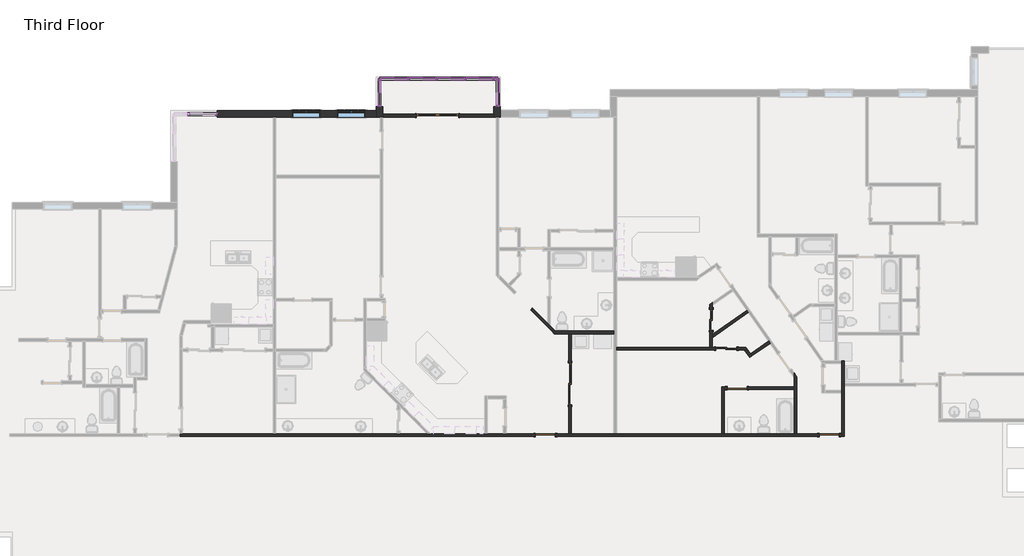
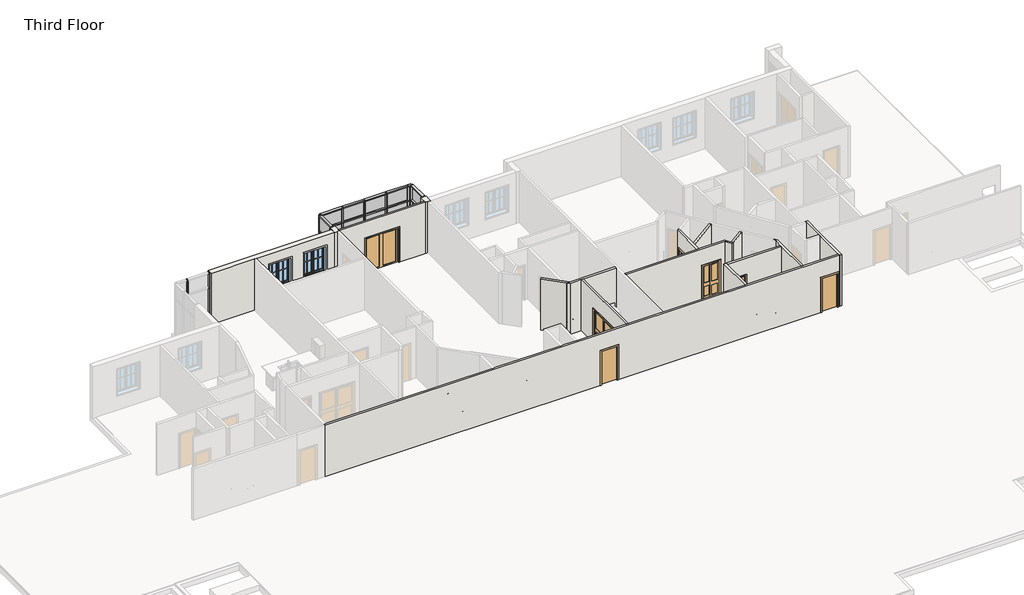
# One storey, part 10 of 17: 46 members, 17 walls, 14 plates, 7 doors, 2 windows.
"""IFC4 building model written with IfcOpenShell, lengths in millimetres."""

from ifc_helpers import new_model, si_unit, frame, origin, place, context, project, spatial, polyline, outline, extrude, faceted_brep, transform, mapped, element, save
from components import door_0a7806e9, door_c29894e6, door_88c23cd7, door_caaf2a11, rectangular_mullion_rectangular_mullion_1_fa3625a1, rectangular_mullion_rectangular_mullion_1_6186cc23, rectangular_mullion_rectangular_mullion_1_049a2e78, rectangular_mullion_rectangular_mullion_1_5cd4c5ac, rectangular_mullion_rectangular_mullion_1_a50b3cda, rectangular_mullion_rectangular_mullion_1_7cbf0b94, rectangular_mullion_rectangular_mullion_1_273a15f2, rectangular_mullion_rectangular_mullion_1_867fe1e1, rectangular_mullion_rectangular_mullion_1_e7cd13e6, rectangular_mullion_rectangular_mullion_1_4b421c8f, system_panel_glazed_53e6f9fb, system_panel_glazed_cb820e14, system_panel_glazed_53e3ec8b, system_panel_glazed_bdec29fe, system_panel_glazed_a1d2dedd, system_panel_glazed_37454f57, window_33528cc2

model = new_model("IFC4")

# Units and contexts
model_context = context("Model", 3, world=origin())
ifc_project = project(units=[si_unit("LENGTHUNIT", "METRE", prefix="MILLI")], contexts=[model_context])

# Site, building, storey
site = spatial("IfcSite", under=ifc_project)
building = spatial("IfcBuilding", under=site)
storey = spatial("IfcBuildingStorey", under=building, Name="Third Floor", Elevation=6096.0)

# Doors
placement = place(None, origin())
door_shape = door_0a7806e9(model_context)
element("IfcDoor", 1, ObjectType="Double-Glass 1 : 72\" x 82\"", at=placement, inside=storey, context=model_context, shape_type="MappedRepresentation", body=[
    mapped(door_shape, transform((29070.5311023, 16131.8552839, 6096.0), x_axis=(1.0, 0.0, 0.0), y_axis=(0.0, 1.0, 0.0), z_axis=(0.0, 0.0, 1.0))),
])
door_2_shape = door_c29894e6(model_context)
element("IfcDoor", 2, ObjectType="Single-Flush : 34\" x 80\"", at=placement, inside=storey, context=model_context, shape_type="MappedRepresentation", body=[
    mapped(door_2_shape, transform((46002.0126872, 2302.2091714, 6096.0), x_axis=(1.0, 0.0, 0.0), y_axis=(0.0, 1.0, 0.0), z_axis=(0.0, 0.0, 1.0))),
])
element("IfcDoor", 3, ObjectType="Single-Flush : 34\" x 80\"", at=placement, inside=storey, context=model_context, shape_type="MappedRepresentation", body=[
    mapped(door_2_shape, transform((42028.0852525, 4334.2091714, 6096.0), x_axis=(-1.0, 0.0, 0.0), y_axis=(0.0, -1.0, 0.0), z_axis=(0.0, 0.0, 1.0))),
])
element("IfcDoor", 4, ObjectType="Single-Flush : 34\" x 80\"", at=placement, inside=storey, context=model_context, shape_type="MappedRepresentation", body=[
    mapped(door_2_shape, transform((33733.8246645, 2302.2091714, 6096.0), x_axis=(1.0, 0.0, 0.0), y_axis=(0.0, 1.0, 0.0), z_axis=(0.0, 0.0, 1.0))),
])
door_3_shape = door_88c23cd7(model_context)
element("IfcDoor", 5, ObjectType="Sliding-Closet : 36\" x 80\"", at=placement, inside=storey, context=model_context, shape_type="MappedRepresentation", body=[
    mapped(door_3_shape, transform((41029.9347694, 7292.860079, 6096.0), x_axis=(0.0, 1.0, 0.0), y_axis=(-1.0, 0.0, 0.0), z_axis=(0.0, 0.0, 1.0))),
])
element("IfcDoor", 6, ObjectType="Sliding-Closet : 36\" x 80\"", at=placement, inside=storey, context=model_context, shape_type="MappedRepresentation", body=[
    mapped(door_3_shape, transform((41563.3347694, 5921.260079, 6096.0), x_axis=(1.0, 0.0, 0.0), y_axis=(0.0, 1.0, 0.0), z_axis=(0.0, 0.0, 1.0))),
])
door_4_shape = door_caaf2a11(model_context)
element("IfcDoor", 7, ObjectType="Sliding-Closet : 72\" x 80\"", at=placement, inside=storey, context=model_context, shape_type="MappedRepresentation", body=[
    mapped(door_4_shape, transform((34927.6246645, 4525.6075569, 6096.0), x_axis=(0.0, 1.0, 0.0), y_axis=(-1.0, 0.0, 0.0), z_axis=(0.0, 0.0, 1.0))),
])

# Members
rectangular_mullion_rectangular_mullion_1_shape = rectangular_mullion_rectangular_mullion_1_fa3625a1(model_context)
element("IfcMember", 8, ObjectType="Rectangular Mullion : Rectangular Mullion 1", at=placement, inside=storey, context=model_context, shape_type="MappedRepresentation", body=[
    mapped(rectangular_mullion_rectangular_mullion_1_shape, transform((19487.8198571, 16206.4791823, 6096.0), x_axis=(0.0, 0.0, -1.0), y_axis=(0.0, 1.0, 0.0), z_axis=(1.0, 0.0, 0.0))),
])
rectangular_mullion_rectangular_mullion_1_2_shape = rectangular_mullion_rectangular_mullion_1_6186cc23(model_context)
element("IfcMember", 9, ObjectType="Rectangular Mullion : Rectangular Mullion 1", at=placement, inside=storey, context=model_context, shape_type="MappedRepresentation", body=[
    mapped(rectangular_mullion_rectangular_mullion_1_2_shape, transform((18300.3698568, 16206.4791823, 6096.0), x_axis=(-1.0, 0.0, 0.0), y_axis=(0.0, 1.0, 0.0), z_axis=(0.0, 0.0, -1.0))),
])
rectangular_mullion_rectangular_mullion_1_3_shape = rectangular_mullion_rectangular_mullion_1_049a2e78(model_context)
element("IfcMember", 10, ObjectType="Rectangular Mullion : Rectangular Mullion 1", at=placement, inside=storey, context=model_context, shape_type="MappedRepresentation", body=[
    mapped(rectangular_mullion_rectangular_mullion_1_3_shape, transform((18300.3698568, 16206.4791823, 8261.35), x_axis=(-1.0, 0.0, 0.0), y_axis=(0.0, 1.0, 0.0), z_axis=(0.0, 0.0, -1.0))),
])
rectangular_mullion_rectangular_mullion_1_4_shape = rectangular_mullion_rectangular_mullion_1_5cd4c5ac(model_context)
element("IfcMember", 11, ObjectType="Rectangular Mullion : Rectangular Mullion 1", at=placement, inside=storey, context=model_context, shape_type="MappedRepresentation", body=[
    mapped(rectangular_mullion_rectangular_mullion_1_4_shape, transform((19551.3198571, 16206.4791823, 9144.0), x_axis=(1.0, 0.0, 0.0), y_axis=(0.0, 1.0, 0.0), z_axis=(0.0, 0.0, 1.0))),
])
rectangular_mullion_rectangular_mullion_1_5_shape = rectangular_mullion_rectangular_mullion_1_a50b3cda(model_context)
element("IfcMember", 12, ObjectType="Rectangular Mullion : Rectangular Mullion 1", at=placement, inside=storey, context=model_context, shape_type="MappedRepresentation", body=[
    mapped(rectangular_mullion_rectangular_mullion_1_5_shape, transform((19551.3198571, 16206.4791823, 8261.35), x_axis=(1.0, 0.0, 0.0), y_axis=(0.0, 1.0, 0.0), z_axis=(0.0, 0.0, 1.0))),
])
element("IfcMember", 13, ObjectType="Rectangular Mullion : Rectangular Mullion 1", at=placement, inside=storey, context=model_context, shape_type="MappedRepresentation", body=[
    mapped(rectangular_mullion_rectangular_mullion_1_shape, transform((27780.9198574, 17730.4791823, 9144.0), x_axis=(0.0, 0.0, 1.0), y_axis=(0.0, -1.0, 0.0), z_axis=(1.0, 0.0, 0.0))),
])
element("IfcMember", 14, ObjectType="Rectangular Mullion : Rectangular Mullion 1", at=placement, inside=storey, context=model_context, shape_type="MappedRepresentation", body=[
    mapped(rectangular_mullion_rectangular_mullion_1_shape, transform((29000.1198574, 17730.4791823, 9144.0), x_axis=(0.0, 0.0, 1.0), y_axis=(0.0, -1.0, 0.0), z_axis=(1.0, 0.0, 0.0))),
])
element("IfcMember", 15, ObjectType="Rectangular Mullion : Rectangular Mullion 1", at=placement, inside=storey, context=model_context, shape_type="MappedRepresentation", body=[
    mapped(rectangular_mullion_rectangular_mullion_1_shape, transform((30219.3198574, 17730.4791823, 9144.0), x_axis=(0.0, 0.0, 1.0), y_axis=(0.0, -1.0, 0.0), z_axis=(1.0, 0.0, 0.0))),
])
element("IfcMember", 16, ObjectType="Rectangular Mullion : Rectangular Mullion 1", at=placement, inside=storey, context=model_context, shape_type="MappedRepresentation", body=[
    mapped(rectangular_mullion_rectangular_mullion_1_shape, transform((31438.5198574, 17730.4791823, 9144.0), x_axis=(0.0, 0.0, 1.0), y_axis=(0.0, -1.0, 0.0), z_axis=(1.0, 0.0, 0.0))),
])
element("IfcMember", 17, ObjectType="Rectangular Mullion : Rectangular Mullion 1", at=placement, inside=storey, context=model_context, shape_type="MappedRepresentation", body=[
    mapped(rectangular_mullion_rectangular_mullion_1_shape, transform((26625.2198571, 17730.4791823, 6096.0), x_axis=(0.0, 0.0, -1.0), y_axis=(0.0, -1.0, 0.0), z_axis=(-1.0, 0.0, 0.0))),
])
element("IfcMember", 18, ObjectType="Rectangular Mullion : Rectangular Mullion 1", at=placement, inside=storey, context=model_context, shape_type="MappedRepresentation", body=[
    mapped(rectangular_mullion_rectangular_mullion_1_shape, transform((27844.4198574, 17730.4791823, 6096.0), x_axis=(0.0, 0.0, -1.0), y_axis=(0.0, -1.0, 0.0), z_axis=(-1.0, 0.0, 0.0))),
])
element("IfcMember", 19, ObjectType="Rectangular Mullion : Rectangular Mullion 1", at=placement, inside=storey, context=model_context, shape_type="MappedRepresentation", body=[
    mapped(rectangular_mullion_rectangular_mullion_1_shape, transform((29063.6198574, 17730.4791823, 6096.0), x_axis=(0.0, 0.0, -1.0), y_axis=(0.0, -1.0, 0.0), z_axis=(-1.0, 0.0, 0.0))),
])
element("IfcMember", 20, ObjectType="Rectangular Mullion : Rectangular Mullion 1", at=placement, inside=storey, context=model_context, shape_type="MappedRepresentation", body=[
    mapped(rectangular_mullion_rectangular_mullion_1_shape, transform((30282.8198574, 17730.4791823, 6096.0), x_axis=(0.0, 0.0, -1.0), y_axis=(0.0, -1.0, 0.0), z_axis=(-1.0, 0.0, 0.0))),
])
element("IfcMember", 21, ObjectType="Rectangular Mullion : Rectangular Mullion 1", at=placement, inside=storey, context=model_context, shape_type="MappedRepresentation", body=[
    mapped(rectangular_mullion_rectangular_mullion_1_5_shape, transform((26561.7198571, 17730.4791823, 6096.0), x_axis=(0.0, 1.0, 0.0), y_axis=(1.0, 0.0, 0.0), z_axis=(0.0, 0.0, -1.0))),
])
element("IfcMember", 22, ObjectType="Rectangular Mullion : Rectangular Mullion 1", at=placement, inside=storey, context=model_context, shape_type="MappedRepresentation", body=[
    mapped(rectangular_mullion_rectangular_mullion_1_5_shape, transform((31667.447822, 17730.4791823, 6096.0), x_axis=(1.0, 0.0, 0.0), y_axis=(0.0, -1.0, 0.0), z_axis=(0.0, 0.0, -1.0))),
])
element("IfcMember", 23, ObjectType="Rectangular Mullion : Rectangular Mullion 1", at=placement, inside=storey, context=model_context, shape_type="MappedRepresentation", body=[
    mapped(rectangular_mullion_rectangular_mullion_1_5_shape, transform((31667.447822, 16511.2791823, 6096.0), x_axis=(0.0, -1.0, 0.0), y_axis=(-1.0, 0.0, 0.0), z_axis=(0.0, 0.0, -1.0))),
])
element("IfcMember", 24, ObjectType="Rectangular Mullion : Rectangular Mullion 1", at=placement, inside=storey, context=model_context, shape_type="MappedRepresentation", body=[
    mapped(rectangular_mullion_rectangular_mullion_1_4_shape, transform((26561.7198571, 17730.4791823, 8261.35), x_axis=(0.0, 1.0, 0.0), y_axis=(1.0, 0.0, 0.0), z_axis=(0.0, 0.0, -1.0))),
])
element("IfcMember", 25, ObjectType="Rectangular Mullion : Rectangular Mullion 1", at=placement, inside=storey, context=model_context, shape_type="MappedRepresentation", body=[
    mapped(rectangular_mullion_rectangular_mullion_1_4_shape, transform((31667.447822, 17730.4791823, 8261.35), x_axis=(1.0, 0.0, 0.0), y_axis=(0.0, -1.0, 0.0), z_axis=(0.0, 0.0, -1.0))),
])
element("IfcMember", 26, ObjectType="Rectangular Mullion : Rectangular Mullion 1", at=placement, inside=storey, context=model_context, shape_type="MappedRepresentation", body=[
    mapped(rectangular_mullion_rectangular_mullion_1_4_shape, transform((31667.447822, 16511.2791823, 8261.35), x_axis=(0.0, -1.0, 0.0), y_axis=(-1.0, 0.0, 0.0), z_axis=(0.0, 0.0, -1.0))),
])
element("IfcMember", 27, ObjectType="Rectangular Mullion : Rectangular Mullion 1", at=placement, inside=storey, context=model_context, shape_type="MappedRepresentation", body=[
    mapped(rectangular_mullion_rectangular_mullion_1_4_shape, transform((26561.7198571, 16511.2791823, 9144.0), x_axis=(0.0, -1.0, 0.0), y_axis=(1.0, 0.0, 0.0), z_axis=(0.0, 0.0, 1.0))),
])
element("IfcMember", 28, ObjectType="Rectangular Mullion : Rectangular Mullion 1", at=placement, inside=storey, context=model_context, shape_type="MappedRepresentation", body=[
    mapped(rectangular_mullion_rectangular_mullion_1_4_shape, transform((26561.7198571, 17730.4791823, 9144.0), x_axis=(-1.0, 0.0, 0.0), y_axis=(0.0, -1.0, 0.0), z_axis=(0.0, 0.0, 1.0))),
])
element("IfcMember", 29, ObjectType="Rectangular Mullion : Rectangular Mullion 1", at=placement, inside=storey, context=model_context, shape_type="MappedRepresentation", body=[
    mapped(rectangular_mullion_rectangular_mullion_1_4_shape, transform((31667.447822, 17730.4791823, 9144.0), x_axis=(0.0, 1.0, 0.0), y_axis=(-1.0, 0.0, 0.0), z_axis=(0.0, 0.0, 1.0))),
])
element("IfcMember", 30, ObjectType="Rectangular Mullion : Rectangular Mullion 1", at=placement, inside=storey, context=model_context, shape_type="MappedRepresentation", body=[
    mapped(rectangular_mullion_rectangular_mullion_1_5_shape, transform((26561.7198571, 16511.2791823, 8261.35), x_axis=(0.0, -1.0, 0.0), y_axis=(1.0, 0.0, 0.0), z_axis=(0.0, 0.0, 1.0))),
])
element("IfcMember", 31, ObjectType="Rectangular Mullion : Rectangular Mullion 1", at=placement, inside=storey, context=model_context, shape_type="MappedRepresentation", body=[
    mapped(rectangular_mullion_rectangular_mullion_1_5_shape, transform((26561.7198571, 17730.4791823, 8261.35), x_axis=(-1.0, 0.0, 0.0), y_axis=(0.0, -1.0, 0.0), z_axis=(0.0, 0.0, 1.0))),
])
element("IfcMember", 32, ObjectType="Rectangular Mullion : Rectangular Mullion 1", at=placement, inside=storey, context=model_context, shape_type="MappedRepresentation", body=[
    mapped(rectangular_mullion_rectangular_mullion_1_5_shape, transform((31667.447822, 17730.4791823, 8261.35), x_axis=(0.0, 1.0, 0.0), y_axis=(-1.0, 0.0, 0.0), z_axis=(0.0, 0.0, 1.0))),
])
rectangular_mullion_rectangular_mullion_1_6_shape = rectangular_mullion_rectangular_mullion_1_7cbf0b94(model_context)
element("IfcMember", 33, ObjectType="Rectangular Mullion : Rectangular Mullion 1", at=placement, inside=storey, context=model_context, shape_type="MappedRepresentation", body=[
    mapped(rectangular_mullion_rectangular_mullion_1_6_shape, transform((27780.9198574, 17730.4791823, 8261.35), x_axis=(0.0, 0.0, 1.0), y_axis=(0.0, -1.0, 0.0), z_axis=(1.0, 0.0, 0.0))),
])
element("IfcMember", 34, ObjectType="Rectangular Mullion : Rectangular Mullion 1", at=placement, inside=storey, context=model_context, shape_type="MappedRepresentation", body=[
    mapped(rectangular_mullion_rectangular_mullion_1_6_shape, transform((29000.1198574, 17730.4791823, 8261.35), x_axis=(0.0, 0.0, 1.0), y_axis=(0.0, -1.0, 0.0), z_axis=(1.0, 0.0, 0.0))),
])
element("IfcMember", 35, ObjectType="Rectangular Mullion : Rectangular Mullion 1", at=placement, inside=storey, context=model_context, shape_type="MappedRepresentation", body=[
    mapped(rectangular_mullion_rectangular_mullion_1_6_shape, transform((30219.3198574, 17730.4791823, 8261.35), x_axis=(0.0, 0.0, 1.0), y_axis=(0.0, -1.0, 0.0), z_axis=(1.0, 0.0, 0.0))),
])
element("IfcMember", 36, ObjectType="Rectangular Mullion : Rectangular Mullion 1", at=placement, inside=storey, context=model_context, shape_type="MappedRepresentation", body=[
    mapped(rectangular_mullion_rectangular_mullion_1_6_shape, transform((31438.5198574, 17730.4791823, 8261.35), x_axis=(0.0, 0.0, 1.0), y_axis=(0.0, -1.0, 0.0), z_axis=(1.0, 0.0, 0.0))),
])
element("IfcMember", 37, ObjectType="Rectangular Mullion : Rectangular Mullion 1", at=placement, inside=storey, context=model_context, shape_type="MappedRepresentation", body=[
    mapped(rectangular_mullion_rectangular_mullion_1_2_shape, transform((27812.6698574, 17730.4791823, 6096.0), x_axis=(1.0, 0.0, 0.0), y_axis=(0.0, -1.0, 0.0), z_axis=(0.0, 0.0, -1.0))),
])
element("IfcMember", 38, ObjectType="Rectangular Mullion : Rectangular Mullion 1", at=placement, inside=storey, context=model_context, shape_type="MappedRepresentation", body=[
    mapped(rectangular_mullion_rectangular_mullion_1_2_shape, transform((29031.8698574, 17730.4791823, 6096.0), x_axis=(1.0, 0.0, 0.0), y_axis=(0.0, -1.0, 0.0), z_axis=(0.0, 0.0, -1.0))),
])
element("IfcMember", 39, ObjectType="Rectangular Mullion : Rectangular Mullion 1", at=placement, inside=storey, context=model_context, shape_type="MappedRepresentation", body=[
    mapped(rectangular_mullion_rectangular_mullion_1_2_shape, transform((30251.0698574, 17730.4791823, 6096.0), x_axis=(1.0, 0.0, 0.0), y_axis=(0.0, -1.0, 0.0), z_axis=(0.0, 0.0, -1.0))),
])
element("IfcMember", 40, ObjectType="Rectangular Mullion : Rectangular Mullion 1", at=placement, inside=storey, context=model_context, shape_type="MappedRepresentation", body=[
    mapped(rectangular_mullion_rectangular_mullion_1_2_shape, transform((31470.2698574, 17730.4791823, 6096.0), x_axis=(1.0, 0.0, 0.0), y_axis=(0.0, -1.0, 0.0), z_axis=(0.0, 0.0, -1.0))),
])
element("IfcMember", 41, ObjectType="Rectangular Mullion : Rectangular Mullion 1", at=placement, inside=storey, context=model_context, shape_type="MappedRepresentation", body=[
    mapped(rectangular_mullion_rectangular_mullion_1_3_shape, transform((27812.6698574, 17730.4791823, 8261.35), x_axis=(1.0, 0.0, 0.0), y_axis=(0.0, -1.0, 0.0), z_axis=(0.0, 0.0, -1.0))),
])
element("IfcMember", 42, ObjectType="Rectangular Mullion : Rectangular Mullion 1", at=placement, inside=storey, context=model_context, shape_type="MappedRepresentation", body=[
    mapped(rectangular_mullion_rectangular_mullion_1_3_shape, transform((29031.8698574, 17730.4791823, 8261.35), x_axis=(1.0, 0.0, 0.0), y_axis=(0.0, -1.0, 0.0), z_axis=(0.0, 0.0, -1.0))),
])
element("IfcMember", 43, ObjectType="Rectangular Mullion : Rectangular Mullion 1", at=placement, inside=storey, context=model_context, shape_type="MappedRepresentation", body=[
    mapped(rectangular_mullion_rectangular_mullion_1_3_shape, transform((30251.0698574, 17730.4791823, 8261.35), x_axis=(1.0, 0.0, 0.0), y_axis=(0.0, -1.0, 0.0), z_axis=(0.0, 0.0, -1.0))),
])
element("IfcMember", 44, ObjectType="Rectangular Mullion : Rectangular Mullion 1", at=placement, inside=storey, context=model_context, shape_type="MappedRepresentation", body=[
    mapped(rectangular_mullion_rectangular_mullion_1_3_shape, transform((31470.2698574, 17730.4791823, 8261.35), x_axis=(1.0, 0.0, 0.0), y_axis=(0.0, -1.0, 0.0), z_axis=(0.0, 0.0, -1.0))),
])
rectangular_mullion_rectangular_mullion_1_7_shape = rectangular_mullion_rectangular_mullion_1_273a15f2(model_context)
element("IfcMember", 45, ObjectType="Rectangular Mullion : Rectangular Mullion 1", at=placement, inside=storey, context=model_context, shape_type="MappedRepresentation", body=[
    mapped(rectangular_mullion_rectangular_mullion_1_7_shape, transform((26561.7198571, 17666.9791823, 9144.0), x_axis=(0.0, 0.0, 1.0), y_axis=(1.0, 0.0, 0.0), z_axis=(0.0, 1.0, 0.0))),
])
element("IfcMember", 46, ObjectType="Rectangular Mullion : Rectangular Mullion 1", at=placement, inside=storey, context=model_context, shape_type="MappedRepresentation", body=[
    mapped(rectangular_mullion_rectangular_mullion_1_7_shape, transform((31667.447822, 16574.7791823, 9144.0), x_axis=(0.0, 0.0, 1.0), y_axis=(-1.0, 0.0, 0.0), z_axis=(0.0, -1.0, 0.0))),
])
element("IfcMember", 47, ObjectType="Rectangular Mullion : Rectangular Mullion 1", at=placement, inside=storey, context=model_context, shape_type="MappedRepresentation", body=[
    mapped(rectangular_mullion_rectangular_mullion_1_7_shape, transform((26561.7198571, 16574.7791823, 6096.0), x_axis=(0.0, 0.0, -1.0), y_axis=(1.0, 0.0, 0.0), z_axis=(0.0, -1.0, 0.0))),
])
element("IfcMember", 48, ObjectType="Rectangular Mullion : Rectangular Mullion 1", at=placement, inside=storey, context=model_context, shape_type="MappedRepresentation", body=[
    mapped(rectangular_mullion_rectangular_mullion_1_7_shape, transform((31667.447822, 17666.9791823, 6096.0), x_axis=(0.0, 0.0, -1.0), y_axis=(-1.0, 0.0, 0.0), z_axis=(0.0, 1.0, 0.0))),
])
rectangular_mullion_rectangular_mullion_1_8_shape = rectangular_mullion_rectangular_mullion_1_867fe1e1(model_context)
element("IfcMember", 49, ObjectType="Rectangular Mullion : Rectangular Mullion 1", at=placement, inside=storey, context=model_context, shape_type="MappedRepresentation", body=[
    mapped(rectangular_mullion_rectangular_mullion_1_8_shape, transform((26561.7198571, 17666.9791823, 8261.35), x_axis=(0.0, 0.0, 1.0), y_axis=(1.0, 0.0, 0.0), z_axis=(0.0, 1.0, 0.0))),
])
element("IfcMember", 50, ObjectType="Rectangular Mullion : Rectangular Mullion 1", at=placement, inside=storey, context=model_context, shape_type="MappedRepresentation", body=[
    mapped(rectangular_mullion_rectangular_mullion_1_8_shape, transform((31667.447822, 16574.7791823, 8261.35), x_axis=(0.0, 0.0, 1.0), y_axis=(-1.0, 0.0, 0.0), z_axis=(0.0, -1.0, 0.0))),
])
rectangular_mullion_rectangular_mullion_1_9_shape = rectangular_mullion_rectangular_mullion_1_e7cd13e6(model_context)
element("IfcMember", 51, ObjectType="Rectangular Mullion : Rectangular Mullion 1", at=placement, inside=storey, context=model_context, shape_type="MappedRepresentation", body=[
    mapped(rectangular_mullion_rectangular_mullion_1_9_shape, transform((31603.947822, 17730.4791823, 9144.0), x_axis=(0.0, 0.0, 1.0), y_axis=(0.0, -1.0, 0.0), z_axis=(1.0, 0.0, 0.0))),
])
element("IfcMember", 52, ObjectType="Rectangular Mullion : Rectangular Mullion 1", at=placement, inside=storey, context=model_context, shape_type="MappedRepresentation", body=[
    mapped(rectangular_mullion_rectangular_mullion_1_9_shape, transform((31502.0198574, 17730.4791823, 6096.0), x_axis=(0.0, 0.0, -1.0), y_axis=(0.0, -1.0, 0.0), z_axis=(-1.0, 0.0, 0.0))),
])
rectangular_mullion_rectangular_mullion_1_10_shape = rectangular_mullion_rectangular_mullion_1_4b421c8f(model_context)
element("IfcMember", 53, ObjectType="Rectangular Mullion : Rectangular Mullion 1", at=placement, inside=storey, context=model_context, shape_type="MappedRepresentation", body=[
    mapped(rectangular_mullion_rectangular_mullion_1_10_shape, transform((31603.947822, 17730.4791823, 8261.35), x_axis=(0.0, 0.0, 1.0), y_axis=(0.0, -1.0, 0.0), z_axis=(1.0, 0.0, 0.0))),
])

# Plates
system_panel_glazed_shape = system_panel_glazed_53e6f9fb(model_context)
element("IfcPlate", 54, ObjectType="System Panel : Glazed", at=placement, inside=storey, context=model_context, shape_type="MappedRepresentation", body=[
    mapped(system_panel_glazed_shape, transform((27203.0698573, 17730.4791823, 6159.5), x_axis=(1.0, 0.0, 0.0), y_axis=(0.0, 1.0, 0.0), z_axis=(0.0, 0.0, 1.0))),
])
element("IfcPlate", 55, ObjectType="System Panel : Glazed", at=placement, inside=storey, context=model_context, shape_type="MappedRepresentation", body=[
    mapped(system_panel_glazed_shape, transform((28422.2698574, 17730.4791823, 6159.5), x_axis=(1.0, 0.0, 0.0), y_axis=(0.0, 1.0, 0.0), z_axis=(0.0, 0.0, 1.0))),
])
element("IfcPlate", 56, ObjectType="System Panel : Glazed", at=placement, inside=storey, context=model_context, shape_type="MappedRepresentation", body=[
    mapped(system_panel_glazed_shape, transform((29641.4698574, 17730.4791823, 6159.5), x_axis=(1.0, 0.0, 0.0), y_axis=(0.0, 1.0, 0.0), z_axis=(0.0, 0.0, 1.0))),
])
element("IfcPlate", 57, ObjectType="System Panel : Glazed", at=placement, inside=storey, context=model_context, shape_type="MappedRepresentation", body=[
    mapped(system_panel_glazed_shape, transform((30860.6698574, 17730.4791823, 6159.5), x_axis=(1.0, 0.0, 0.0), y_axis=(0.0, 1.0, 0.0), z_axis=(0.0, 0.0, 1.0))),
])
system_panel_glazed_2_shape = system_panel_glazed_cb820e14(model_context)
element("IfcPlate", 58, ObjectType="System Panel : Glazed", at=placement, inside=storey, context=model_context, shape_type="MappedRepresentation", body=[
    mapped(system_panel_glazed_2_shape, transform((27203.0698573, 17730.4791823, 8293.1), x_axis=(1.0, 0.0, 0.0), y_axis=(0.0, 1.0, 0.0), z_axis=(0.0, 0.0, 1.0))),
])
element("IfcPlate", 59, ObjectType="System Panel : Glazed", at=placement, inside=storey, context=model_context, shape_type="MappedRepresentation", body=[
    mapped(system_panel_glazed_2_shape, transform((28422.2698574, 17730.4791823, 8293.1), x_axis=(1.0, 0.0, 0.0), y_axis=(0.0, 1.0, 0.0), z_axis=(0.0, 0.0, 1.0))),
])
element("IfcPlate", 60, ObjectType="System Panel : Glazed", at=placement, inside=storey, context=model_context, shape_type="MappedRepresentation", body=[
    mapped(system_panel_glazed_2_shape, transform((29641.4698574, 17730.4791823, 8293.1), x_axis=(1.0, 0.0, 0.0), y_axis=(0.0, 1.0, 0.0), z_axis=(0.0, 0.0, 1.0))),
])
element("IfcPlate", 61, ObjectType="System Panel : Glazed", at=placement, inside=storey, context=model_context, shape_type="MappedRepresentation", body=[
    mapped(system_panel_glazed_2_shape, transform((30860.6698574, 17730.4791823, 8293.1), x_axis=(1.0, 0.0, 0.0), y_axis=(0.0, 1.0, 0.0), z_axis=(0.0, 0.0, 1.0))),
])
system_panel_glazed_3_shape = system_panel_glazed_53e3ec8b(model_context)
element("IfcPlate", 62, ObjectType="System Panel : Glazed", at=placement, inside=storey, context=model_context, shape_type="MappedRepresentation", body=[
    mapped(system_panel_glazed_3_shape, transform((26561.7198571, 17120.8791823, 6159.5), x_axis=(0.0, 1.0, 0.0), y_axis=(-1.0, 0.0, 0.0), z_axis=(0.0, 0.0, 1.0))),
])
element("IfcPlate", 63, ObjectType="System Panel : Glazed", at=placement, inside=storey, context=model_context, shape_type="MappedRepresentation", body=[
    mapped(system_panel_glazed_3_shape, transform((31667.447822, 17120.8791823, 6159.5), x_axis=(0.0, -1.0, 0.0), y_axis=(1.0, 0.0, 0.0), z_axis=(0.0, 0.0, 1.0))),
])
system_panel_glazed_4_shape = system_panel_glazed_bdec29fe(model_context)
element("IfcPlate", 64, ObjectType="System Panel : Glazed", at=placement, inside=storey, context=model_context, shape_type="MappedRepresentation", body=[
    mapped(system_panel_glazed_4_shape, transform((26561.7198571, 17120.8791823, 8293.1), x_axis=(0.0, 1.0, 0.0), y_axis=(-1.0, 0.0, 0.0), z_axis=(0.0, 0.0, 1.0))),
])
element("IfcPlate", 65, ObjectType="System Panel : Glazed", at=placement, inside=storey, context=model_context, shape_type="MappedRepresentation", body=[
    mapped(system_panel_glazed_4_shape, transform((31667.447822, 17120.8791823, 8293.1), x_axis=(0.0, -1.0, 0.0), y_axis=(1.0, 0.0, 0.0), z_axis=(0.0, 0.0, 1.0))),
])
system_panel_glazed_5_shape = system_panel_glazed_a1d2dedd(model_context)
element("IfcPlate", 66, ObjectType="System Panel : Glazed", at=placement, inside=storey, context=model_context, shape_type="MappedRepresentation", body=[
    mapped(system_panel_glazed_5_shape, transform((31552.9838397, 17730.4791823, 6159.5), x_axis=(1.0, 0.0, 0.0), y_axis=(0.0, 1.0, 0.0), z_axis=(0.0, 0.0, 1.0))),
])
system_panel_glazed_6_shape = system_panel_glazed_37454f57(model_context)
element("IfcPlate", 67, ObjectType="System Panel : Glazed", at=placement, inside=storey, context=model_context, shape_type="MappedRepresentation", body=[
    mapped(system_panel_glazed_6_shape, transform((31552.9838397, 17730.4791823, 8293.1), x_axis=(1.0, 0.0, 0.0), y_axis=(0.0, 1.0, 0.0), z_axis=(0.0, 0.0, 1.0))),
])

# Walls
element("IfcWall", 68, ObjectType="Exterior - Brick on Wood Stud", at=placement, inside=storey, context=model_context, shape_type="Brep", body=[
    faceted_brep([(31777.7798474, 16077.0865339, 6096.0), (31777.7798474, 16359.6615339, 6096.0), (31777.7798474, 16511.2791823, 6096.0), (31777.7798474, 16511.2791823, 9144.0), (31777.7798474, 16359.6615339, 9144.0), (31777.7798474, 16077.0865339, 9144.0), (31495.2048474, 16077.0865339, 6096.0), (31495.2048474, 16077.0865339, 9144.0), (31495.2048474, 16191.3865339, 9144.0), (31495.2048474, 16511.2791823, 9144.0), (31495.2048474, 16511.2791823, 6096.0), (31495.2048474, 16191.3865339, 6096.0), (31724.597822, 16077.0865339, 6096.0), (31610.297822, 16077.0865339, 6096.0), (31610.297822, 16077.0865339, 9144.0), (31724.597822, 16077.0865339, 9144.0)], [[[0, 1, 2, 3, 4, 5]], [[6, 7, 8, 9, 10, 11]], [[2, 1, 0, 12, 13, 6, 11, 10]], [[3, 2, 10, 9]], [[5, 4, 3, 9, 8, 7, 14, 15]], [[0, 5, 15, 14, 7, 6, 13, 12]]]),
])
element("IfcWall", 69, ObjectType="Exterior - Brick on Wood Stud", at=placement, inside=storey, context=model_context, shape_type="Brep", body=[
    faceted_brep([(26420.4323571, 16511.2791823, 6096.0), (26420.4323571, 16347.7666823, 6096.0), (26420.4323571, 16065.1916823, 6096.0), (26420.4323571, 16065.1916823, 9144.0), (26420.4323571, 16347.7666823, 9144.0), (26420.4323571, 16511.2791823, 9144.0), (26703.0073571, 16511.2791823, 6096.0), (26703.0073571, 16511.2791823, 9144.0), (26703.0073571, 16191.3865339, 9144.0), (26703.0073571, 16077.0865339, 9144.0), (26703.0073571, 16065.1916823, 9144.0), (26703.0073571, 16065.1916823, 6096.0), (26703.0073571, 16077.0865339, 6096.0), (26703.0073571, 16191.3865339, 6096.0)], [[[0, 1, 2, 3, 4, 5]], [[6, 7, 8, 9, 10, 11, 12, 13]], [[2, 1, 0, 6, 13, 12, 11]], [[5, 4, 3, 10, 9, 8, 7]], [[0, 5, 7, 6]], [[3, 2, 11, 10]]]),
])
element("IfcWall", 70, ObjectType="Exterior - Brick on Wood Stud", at=placement, inside=storey, context=model_context, shape_type="Brep", body=[
    faceted_brep([(26420.4323571, 16347.7666823, 6096.0), (19551.3198571, 16347.7666823, 6096.0), (19551.3198571, 16347.7666823, 9144.0), (26420.4323571, 16347.7666823, 9144.0), (25952.1198571, 16347.7666823, 8534.4), (24732.9198571, 16347.7666823, 8534.4), (24732.9198571, 16347.7666823, 7010.4), (25952.1198571, 16347.7666823, 7010.4), (24004.2573571, 16347.7666823, 8534.4), (22785.0573571, 16347.7666823, 8534.4), (22785.0573571, 16347.7666823, 7010.4), (24004.2573571, 16347.7666823, 7010.4), (26420.4323571, 16065.1916823, 6096.0), (26420.4323571, 16065.1916823, 9144.0), (22080.2073571, 16065.1916823, 9144.0), (21965.9073571, 16065.1916823, 9144.0), (19551.3198571, 16065.1916823, 9144.0), (19551.3198571, 16065.1916823, 6096.0), (21965.9073571, 16065.1916823, 6096.0), (22080.2073571, 16065.1916823, 6096.0), (25952.1198571, 16065.1916823, 8534.4), (25952.1198571, 16065.1916823, 7010.4), (24732.9198571, 16065.1916823, 7010.4), (24732.9198571, 16065.1916823, 8534.4), (24004.2573571, 16065.1916823, 8534.4), (24004.2573571, 16065.1916823, 7010.4), (22785.0573571, 16065.1916823, 7010.4), (22785.0573571, 16065.1916823, 8534.4)], [[[0, 1, 2, 3], [4, 5, 6, 7], [8, 9, 10, 11]], [[12, 13, 14, 15, 16, 17, 18, 19], [20, 21, 22, 23], [24, 25, 26, 27]], [[1, 0, 12, 19, 18, 17]], [[2, 1, 17, 16]], [[3, 2, 16, 15, 14, 13]], [[21, 20, 4, 7]], [[22, 21, 7, 6]], [[23, 22, 6, 5]], [[20, 23, 5, 4]], [[25, 24, 8, 11]], [[26, 25, 11, 10]], [[27, 26, 10, 9]], [[24, 27, 9, 8]], [[0, 3, 13, 12]]]),
])
element("IfcWall", 71, ObjectType="Interior - 4 1/2\" Partition", at=placement, inside=storey, context=model_context, shape_type="Brep", body=[
    faceted_brep([(46668.7626872, 2245.0591714, 6096.0), (46668.7626872, 4430.1886142, 6096.0), (46668.7626872, 4544.4886142, 6096.0), (46668.7626872, 5524.2893477, 6096.0), (46668.7626872, 5524.2893477, 9144.0), (46668.7626872, 4544.4886142, 9144.0), (46668.7626872, 4430.1886142, 9144.0), (46668.7626872, 2245.0591714, 9144.0), (46554.4626872, 2245.0591714, 6096.0), (46554.4626872, 2245.0591714, 9144.0), (46554.4626872, 2359.3591714, 9144.0), (46554.4626872, 4124.6591714, 9144.0), (46554.4626872, 4238.9591714, 9144.0), (46554.4626872, 5409.9893477, 9144.0), (46554.4626872, 5524.2893477, 9144.0), (46554.4626872, 5524.2893477, 6096.0), (46554.4626872, 5409.9893477, 6096.0), (46554.4626872, 4238.9591714, 6096.0), (46554.4626872, 4124.6591714, 6096.0), (46554.4626872, 2359.3591714, 6096.0)], [[[0, 1, 2, 3, 4, 5, 6, 7]], [[8, 9, 10, 11, 12, 13, 14, 15, 16, 17, 18, 19]], [[3, 2, 1, 0, 8, 19, 18, 17, 16, 15]], [[7, 6, 5, 4, 14, 13, 12, 11, 10, 9]], [[0, 7, 9, 8]], [[4, 3, 15, 14]]]),
])
element("IfcWall", 72, ObjectType="Interior - 4 1/2\" Partition", at=placement, inside=storey, context=model_context, shape_type="Brep", body=[
    faceted_brep([(45570.2126872, 2359.3591714, 6096.0), (44606.2949591, 2359.3591714, 6096.0), (44491.9949591, 2359.3591714, 6096.0), (41475.6352525, 2359.3591714, 6096.0), (41361.3352525, 2359.3591714, 6096.0), (36816.4178001, 2359.3591714, 6096.0), (36702.1178001, 2359.3591714, 6096.0), (34857.7746645, 2359.3591714, 6096.0), (34743.4746645, 2359.3591714, 6096.0), (34165.6246645, 2359.3591714, 6096.0), (34165.6246645, 2359.3591714, 8128.0), (33302.0246645, 2359.3591714, 8128.0), (33302.0246645, 2359.3591714, 6096.0), (32034.1576897, 2359.3591714, 6096.0), (31919.8576897, 2359.3591714, 6096.0), (31221.3576897, 2359.3591714, 6096.0), (31107.0576897, 2359.3591714, 6096.0), (28783.4392197, 2359.3591714, 6096.0), (28621.7946095, 2359.3591714, 6096.0), (27441.30388, 2359.3591714, 6096.0), (27327.00388, 2359.3591714, 6096.0), (22080.2073571, 2359.3591714, 6096.0), (21965.9073571, 2359.3591714, 6096.0), (18027.8493195, 2359.3591714, 6096.0), (17913.5493195, 2359.3591714, 6096.0), (17913.5493195, 2359.3591714, 9144.0), (18027.8493195, 2359.3591714, 9144.0), (21965.9073571, 2359.3591714, 9144.0), (22080.2073571, 2359.3591714, 9144.0), (27327.00388, 2359.3591714, 9144.0), (27441.30388, 2359.3591714, 9144.0), (28621.7946095, 2359.3591714, 9144.0), (28783.4392197, 2359.3591714, 9144.0), (31107.0576897, 2359.3591714, 9144.0), (31221.3576897, 2359.3591714, 9144.0), (31919.8576897, 2359.3591714, 9144.0), (32034.1576897, 2359.3591714, 9144.0), (34743.4746645, 2359.3591714, 9144.0), (34857.7746645, 2359.3591714, 9144.0), (36702.1178001, 2359.3591714, 9144.0), (36816.4178001, 2359.3591714, 9144.0), (41361.3352525, 2359.3591714, 9144.0), (41475.6352525, 2359.3591714, 9144.0), (44491.9949591, 2359.3591714, 9144.0), (44606.2949591, 2359.3591714, 9144.0), (46554.4626872, 2359.3591714, 9144.0), (46554.4626872, 2359.3591714, 6096.0), (46433.8126872, 2359.3591714, 6096.0), (46433.8126872, 2359.3591714, 8128.0), (45570.2126872, 2359.3591714, 8128.0), (34165.6246645, 2245.0591714, 8128.0), (34165.6246645, 2245.0591714, 6096.0), (45570.2126872, 2245.0591714, 6096.0), (45570.2126872, 2245.0591714, 8128.0), (46433.8126872, 2245.0591714, 8128.0), (46433.8126872, 2245.0591714, 6096.0), (46554.4626872, 2245.0591714, 6096.0), (46554.4626872, 2245.0591714, 9144.0), (17913.5493195, 2245.0591714, 9144.0), (17913.5493195, 2245.0591714, 6096.0), (33302.0246645, 2245.0591714, 6096.0), (33302.0246645, 2245.0591714, 8128.0)], [[[0, 1, 2, 3, 4, 5, 6, 7, 8, 9, 10, 11, 12, 13, 14, 15, 16, 17, 18, 19, 20, 21, 22, 23, 24, 25, 26, 27, 28, 29, 30, 31, 32, 33, 34, 35, 36, 37, 38, 39, 40, 41, 42, 43, 44, 45, 46, 47, 48, 49]], [[50, 51, 52, 53, 54, 55, 56, 57, 58, 59, 60, 61]], [[56, 55, 47, 46]], [[60, 59, 24, 23, 22, 21, 20, 19, 18, 17, 16, 15, 14, 13, 12]], [[52, 51, 9, 8, 7, 6, 5, 4, 3, 2, 1, 0]], [[45, 44, 43, 42, 41, 40, 39, 38, 37, 36, 35, 34, 33, 32, 31, 30, 29, 28, 27, 26, 25, 58, 57]], [[48, 47, 55, 54]], [[49, 48, 54, 53]], [[0, 49, 53, 52]], [[10, 9, 51, 50]], [[11, 10, 50, 61]], [[12, 11, 61, 60]], [[25, 24, 59, 58]], [[46, 45, 57, 56]]]),
])
element("IfcWall", 73, ObjectType="Interior - 4 1/2\" Partition", at=placement, inside=storey, context=model_context, shape_type="Brep", body=[
    faceted_brep([(41475.6352525, 2359.3591714, 6096.0), (41475.6352525, 4277.0591714, 6096.0), (41475.6352525, 4391.3591714, 6096.0), (41475.6352525, 4391.3591714, 9144.0), (41475.6352525, 4277.0591714, 9144.0), (41475.6352525, 2359.3591714, 9144.0), (41361.3352525, 2359.3591714, 6096.0), (41361.3352525, 2359.3591714, 9144.0), (41361.3352525, 4391.3591714, 9144.0), (41361.3352525, 4391.3591714, 6096.0)], [[[0, 1, 2, 3, 4, 5]], [[6, 7, 8, 9]], [[2, 1, 0, 6, 9]], [[5, 4, 3, 8, 7]], [[3, 2, 9, 8]], [[0, 5, 7, 6]]]),
])
element("IfcWall", 74, ObjectType="Interior - 4 1/2\" Partition", at=placement, inside=storey, context=model_context, shape_type="SweptSolid", body=[
    extrude(outline(polyline([(6096.0, 41475.6352525), (6096.0, 41596.2852525), (8128.0, 41596.2852525), (8128.0, 42459.8852525), (6096.0, 42459.8852525), (6096.0, 44491.9949591), (9144.0, 44491.9949591), (9144.0, 41475.6352525), (6096.0, 41475.6352525)])), frame((0.0, 4277.0591714, 0.0), z_axis=(0.0, 1.0, 0.0), x_axis=(0.0, 0.0, 1.0)), (0.0, 0.0, 1.0), 114.3),
])
element("IfcWall", 75, ObjectType="Interior - 4 1/2\" Partition", at=placement, inside=storey, context=model_context, shape_type="Brep", body=[
    faceted_brep([(44491.9949591, 4990.220165, 6096.0), (44491.9949591, 4790.9441963, 6096.0), (44491.9949591, 4391.3591714, 6096.0), (44491.9949591, 4277.0591714, 6096.0), (44491.9949591, 2359.3591714, 6096.0), (44491.9949591, 2359.3591714, 9144.0), (44491.9949591, 4277.0591714, 9144.0), (44491.9949591, 4391.3591714, 9144.0), (44491.9949591, 4790.9441963, 9144.0), (44491.9949591, 4990.220165, 9144.0), (44606.2949591, 4826.9828478, 6096.0), (44606.2949591, 4826.9828478, 9144.0), (44606.2949591, 2359.3591714, 9144.0), (44606.2949591, 2359.3591714, 6096.0)], [[[0, 1, 2, 3, 4, 5, 6, 7, 8, 9]], [[10, 11, 12, 13]], [[4, 3, 2, 1, 0, 10, 13]], [[9, 8, 7, 6, 5, 12, 11]], [[0, 9, 11, 10]], [[5, 4, 13, 12]]]),
])
element("IfcWall", 76, ObjectType="Interior - 4 1/2\" Partition", at=placement, inside=storey, context=model_context, shape_type="Brep", body=[
    faceted_brep([(42020.5347694, 5991.110079, 8128.0), (42020.5347694, 5991.110079, 6096.0), (42342.9173932, 5991.110079, 6096.0), (42482.4519287, 5991.110079, 6096.0), (42482.4519287, 5991.110079, 9144.0), (42342.9173932, 5991.110079, 9144.0), (36816.4178001, 5991.110079, 9144.0), (36816.4178001, 5991.110079, 6096.0), (41106.1347694, 5991.110079, 6096.0), (41106.1347694, 5991.110079, 8128.0), (42402.4182071, 6105.410079, 6096.0), (42020.5347694, 6105.410079, 6096.0), (42020.5347694, 6105.410079, 8128.0), (41106.1347694, 6105.410079, 8128.0), (41106.1347694, 6105.410079, 6096.0), (40960.0847694, 6105.410079, 6096.0), (40845.7847694, 6105.410079, 6096.0), (36816.4178001, 6105.410079, 6096.0), (36816.4178001, 6105.410079, 9144.0), (40845.7847694, 6105.410079, 9144.0), (40960.0847694, 6105.410079, 9144.0), (42402.4182071, 6105.410079, 9144.0)], [[[0, 1, 2, 3, 4, 5, 6, 7, 8, 9]], [[10, 11, 12, 13, 14, 15, 16, 17, 18, 19, 20, 21]], [[8, 7, 17, 16, 15, 14]], [[3, 2, 1, 11, 10]], [[6, 5, 4, 21, 20, 19, 18]], [[14, 13, 9, 8]], [[12, 11, 1, 0]], [[13, 12, 0, 9]], [[4, 3, 10, 21]], [[7, 6, 18, 17]]]),
])
element("IfcWall", 77, ObjectType="Interior - 4 1/2\" Partition", at=placement, inside=storey, context=model_context, shape_type="Brep", body=[
    faceted_brep([(42342.9173932, 5991.110079, 6096.0), (42571.294409, 5664.953899, 6096.0), (42571.294409, 5664.953899, 9144.0), (42342.9173932, 5991.110079, 9144.0), (42482.4519287, 5991.110079, 6096.0), (42482.4519287, 5991.110079, 9144.0), (42599.363701, 5824.1427644, 9144.0), (42664.9234877, 5730.5136857, 9144.0), (42664.9234877, 5730.5136857, 6096.0), (42599.363701, 5824.1427644, 6096.0)], [[[0, 1, 2, 3]], [[4, 5, 6, 7, 8, 9]], [[1, 0, 4, 9, 8]], [[3, 2, 7, 6, 5]], [[2, 1, 8, 7]], [[0, 3, 5, 4]]]),
])
element("IfcWall", 78, ObjectType="Interior - 4 1/2\" Partition", at=placement, inside=storey, context=model_context, shape_type="SweptSolid", body=[
    extrude(outline(polyline([(43449.4535887, 6279.8475763), (42664.9234877, 5730.5136857), (42599.363701, 5824.1427644), (43383.893802, 6373.476655), (43449.4535887, 6279.8475763)])), frame((0.0, 0.0, 6096.0), z_axis=(0.0, 0.0, 1.0), x_axis=(1.0, 0.0, 0.0)), (0.0, 0.0, 1.0), 3048.0),
])
element("IfcWall", 79, ObjectType="Interior - 4 1/2\" Partition", at=placement, inside=storey, context=model_context, shape_type="SweptSolid", body=[
    extrude(outline(polyline([(40960.0847694, 6659.476836), (42452.1089123, 7704.203388), (42517.668699, 7610.5743093), (40960.0847694, 6519.9423005), (40960.0847694, 6659.476836)])), frame((0.0, 0.0, 6096.0), z_axis=(0.0, 0.0, 1.0), x_axis=(1.0, 0.0, 0.0)), (0.0, 0.0, 1.0), 3048.0),
])
element("IfcWall", 80, ObjectType="Interior - 4 1/2\" Partition", at=placement, inside=storey, context=model_context, shape_type="Brep", body=[
    faceted_brep([(40960.0847694, 7750.060079, 8128.0), (40960.0847694, 7750.060079, 6096.0), (40960.0847694, 7905.9211855, 6096.0), (40960.0847694, 8045.455721, 6096.0), (40960.0847694, 8045.455721, 9144.0), (40960.0847694, 7905.9211855, 9144.0), (40960.0847694, 6659.476836, 9144.0), (40960.0847694, 6519.9423005, 9144.0), (40960.0847694, 6105.410079, 9144.0), (40960.0847694, 6105.410079, 6096.0), (40960.0847694, 6519.9423005, 6096.0), (40960.0847694, 6659.476836, 6096.0), (40960.0847694, 6835.660079, 6096.0), (40960.0847694, 6835.660079, 8128.0), (40845.7847694, 7965.4219994, 6096.0), (40845.7847694, 7750.060079, 6096.0), (40845.7847694, 7750.060079, 8128.0), (40845.7847694, 6835.660079, 8128.0), (40845.7847694, 6835.660079, 6096.0), (40845.7847694, 6105.410079, 6096.0), (40845.7847694, 6105.410079, 9144.0), (40845.7847694, 7965.4219994, 9144.0)], [[[0, 1, 2, 3, 4, 5, 6, 7, 8, 9, 10, 11, 12, 13]], [[14, 15, 16, 17, 18, 19, 20, 21]], [[12, 11, 10, 9, 19, 18]], [[3, 2, 1, 15, 14]], [[8, 7, 6, 5, 4, 21, 20]], [[18, 17, 13, 12]], [[16, 15, 1, 0]], [[17, 16, 0, 13]], [[4, 3, 14, 21]], [[9, 8, 20, 19]]]),
])
element("IfcWall", 81, ObjectType="Interior - 4 1/2\" Partition", at=placement, inside=storey, context=model_context, shape_type="SweptSolid", body=[
    extrude(outline(polyline([(6691.8559423, 6096.0), (5440.0075569, 6096.0), (5440.0075569, 8128.0), (3611.2075569, 8128.0), (3611.2075569, 6096.0), (2359.3591714, 6096.0), (2359.3591714, 9144.0), (6691.8559423, 9144.0), (6691.8559423, 6096.0)])), frame((34743.4746645, 0.0, 0.0), z_axis=(1.0, 0.0, 0.0), x_axis=(0.0, 1.0, 0.0)), (0.0, 0.0, 1.0), 114.3),
])
element("IfcWall", 82, ObjectType="Interior - 4 1/2\" Partition", at=placement, inside=storey, context=model_context, shape_type="Brep", body=[
    faceted_brep([(34122.1363121, 6691.8559423, 6096.0), (34743.4746645, 6691.8559423, 6096.0), (34857.7746645, 6691.8559423, 6096.0), (36702.1178001, 6691.8559423, 6096.0), (36702.1178001, 6691.8559423, 9144.0), (34857.7746645, 6691.8559423, 9144.0), (34743.4746645, 6691.8559423, 9144.0), (34122.1363121, 6691.8559423, 9144.0), (34007.8363121, 6806.1559423, 6096.0), (34007.8363121, 6806.1559423, 9144.0), (34169.4809223, 6806.1559423, 9144.0), (36702.1178001, 6806.1559423, 9144.0), (36702.1178001, 6806.1559423, 6096.0), (34169.4809223, 6806.1559423, 6096.0)], [[[0, 1, 2, 3, 4, 5, 6, 7]], [[8, 9, 10, 11, 12, 13]], [[3, 2, 1, 0, 8, 13, 12]], [[7, 6, 5, 4, 11, 10, 9]], [[0, 7, 9, 8]], [[4, 3, 12, 11]]]),
])
element("IfcWall", 83, ObjectType="Interior - 4 1/2\" Partition", at=placement, inside=storey, context=model_context, shape_type="SweptSolid", body=[
    extrude(outline(polyline([(8178.8, 29984.9311023), (6096.0, 29984.9311023), (6096.0, 31495.2048474), (9144.0, 31495.2048474), (9144.0, 26703.0073571), (6096.0, 26703.0073571), (6096.0, 28156.1311023), (8178.8, 28156.1311023), (8178.8, 29984.9311023)])), frame((0.0, 16077.0865339, 0.0), z_axis=(0.0, 1.0, 0.0), x_axis=(0.0, 0.0, 1.0)), (0.0, 0.0, 1.0), 114.3),
])
element("IfcWall", 84, ObjectType="Interior - 4 1/2\" Partition", at=placement, inside=storey, context=model_context, shape_type="Brep", body=[
    faceted_brep([(33092.2620803, 7721.7301741, 6096.0), (34007.8363121, 6806.1559423, 6096.0), (34007.8363121, 6806.1559423, 9144.0), (33092.2620803, 7721.7301741, 9144.0), (33173.0843854, 7802.5524792, 6096.0), (33173.0843854, 7802.5524792, 9144.0), (33839.1003506, 7136.5365139, 9144.0), (33953.4003506, 7022.2365139, 9144.0), (34169.4809223, 6806.1559423, 9144.0), (34169.4809223, 6806.1559423, 6096.0), (33953.4003506, 7022.2365139, 6096.0), (33839.1003506, 7136.5365139, 6096.0)], [[[0, 1, 2, 3]], [[4, 5, 6, 7, 8, 9, 10, 11]], [[1, 0, 4, 11, 10, 9]], [[3, 2, 8, 7, 6, 5]], [[0, 3, 5, 4]], [[2, 1, 9, 8]]]),
])

# Windows
window_shape = window_33528cc2(model_context)
element("IfcWindow", 85, ObjectType="Window-Casement-Double : 48\" x 60\"", at=placement, inside=storey, context=model_context, shape_type="MappedRepresentation", body=[
    mapped(window_shape, transform((25342.5198571, 16206.4791823, 6096.0), x_axis=(1.0, 0.0, 0.0), y_axis=(0.0, 1.0, 0.0), z_axis=(0.0, 0.0, 1.0))),
])
element("IfcWindow", 86, ObjectType="Window-Casement-Double : 48\" x 60\"", at=placement, inside=storey, context=model_context, shape_type="MappedRepresentation", body=[
    mapped(window_shape, transform((23394.6573571, 16206.4791823, 6096.0), x_axis=(1.0, 0.0, 0.0), y_axis=(0.0, 1.0, 0.0), z_axis=(0.0, 0.0, 1.0))),
])

save(model, "model.ifc")
